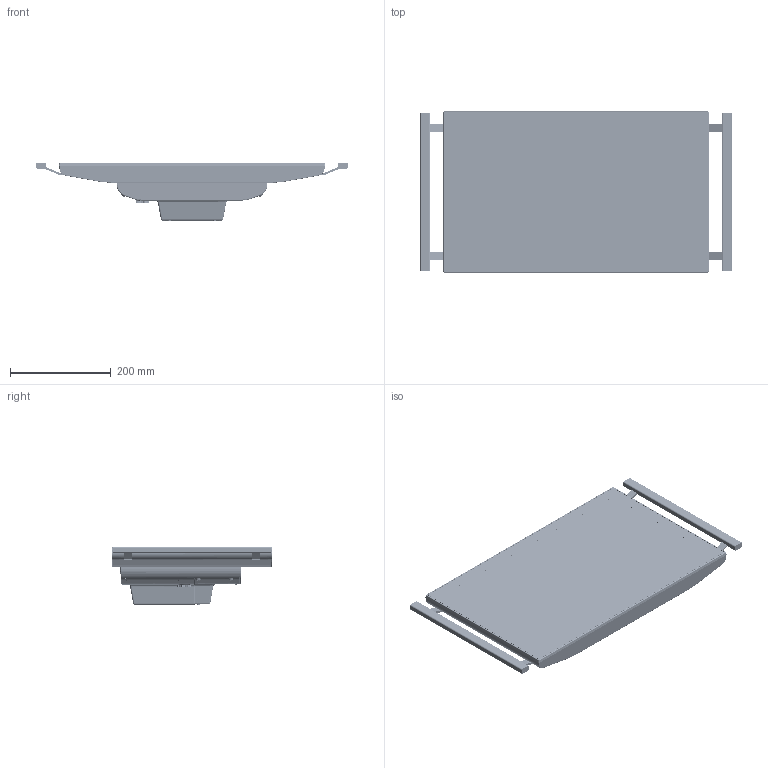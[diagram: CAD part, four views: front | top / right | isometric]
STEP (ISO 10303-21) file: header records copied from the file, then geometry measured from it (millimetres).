
FILE_DESCRIPTION (( 'STEP AP214' ), '1' );
FILE_NAME ('vk3500_215_vesa_maniglie_usbpost.STEP', '2022-03-08T15:51:19', ( '' ), ( '' ), 'SwSTEP 2.0', 'SolidWorks 2021', '' );
FILE_SCHEMA (( 'AUTOMOTIVE_DESIGN' ));
Length unit declared in the file: millimetre
Products named in the file (15): vk3500_215_vesa_maniglie_usbpost; 66811015; 55688012; 56236021; 56202009; kit_posteriore_vesa_usb3; 55600028; 56600541; 69111021; 50342037; 60290002; 57836056_Default<A macchina>; 56636883; 56600624; ________________________________________^00_d18201915
Assembly tree (30 placements, depth 4):
  vk3500_215_vesa_maniglie_usbpost
    56600624
      56600541
        56636883
        50342037
      55600028
        55688012
    57836056_Default<A macchina>
    56202009  x4
    56236021  x2
    66811015  x8
    69111021  x4
    60290002  x4
    kit_posteriore_vesa_usb3
  ________________________________________^00_d18201915
Bounding box: 619.5 x 320.15 x 116 mm (x, y, z)
Volume: 1196226.7 mm3; surface area: 1090509.6 mm2
Topology: 32 solids, 98 shells, 4315 faces, 10577 edges, 6503 vertices
Faces by surface type: cylinder 1510, plane 1230, cone 798, bspline 514, torus 198, sphere 65
Entity records: 181617 total; most frequent: CARTESIAN_POINT 65826, ORIENTED_EDGE 17994, DIRECTION 17597, EDGE_CURVE 9039, AXIS2_PLACEMENT_3D 6873, VERTEX_POINT 5585, EDGE_LOOP 4150, VECTOR 3851
